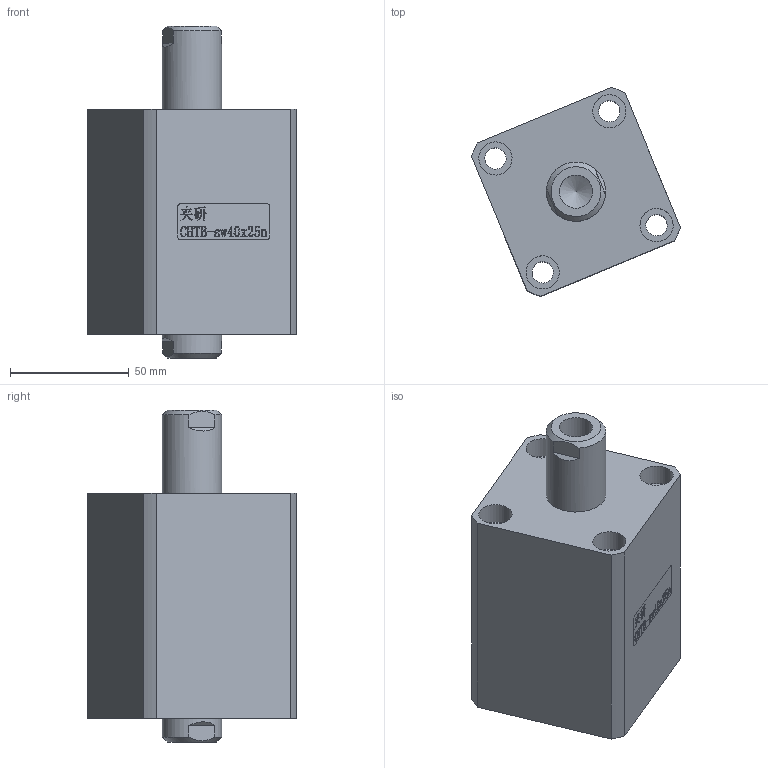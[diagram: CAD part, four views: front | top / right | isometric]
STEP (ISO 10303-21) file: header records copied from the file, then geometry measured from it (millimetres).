
FILE_DESCRIPTION(/* description */ (''),/* implementation_level */ '2;1');
FILE_NAME(/* name */ 'CHTB-sw40x25n.stp',/* time_stamp */ '2022-04-29T17:48:56+08:00',/* author */ (''),/* organization */ (''),/* preprocessor_version */ 'ST-DEVELOPER v16.7',/* originating_system */ 'SIEMENS PLM Software NX 12.0',/* authorisation */ '');
FILE_SCHEMA (('AUTOMOTIVE_DESIGN { 1 0 10303 214 3 1 1 1 }'));
Length unit declared in the file: millimetre
Products named in the file (1): CHTB-sw40x25n
Bounding box: 88.11 x 88.11 x 140 mm (x, y, z)
Volume: 421528.3 mm3; surface area: 84740 mm2
Topology: 3 solids, 3 shells, 461 faces, 1243 edges, 832 vertices
Faces by surface type: plane 301, extrusion 94, cylinder 41, torus 10, cone 9, bspline 6
Full cylindrical faces by diameter (mm): 4.2 x2, 5 x2, 9 x4, 10.7 x2, 14 x10, 25 x4, 29 x1, 34 x2, 40 x4, 45 x1
Entity records: 20407 total; most frequent: CARTESIAN_POINT 6972, ORIENTED_EDGE 2332, DIRECTION 1850, EDGE_CURVE 1166, VECTOR 932, LINE 838, VERTEX_POINT 810, EDGE_LOOP 572
